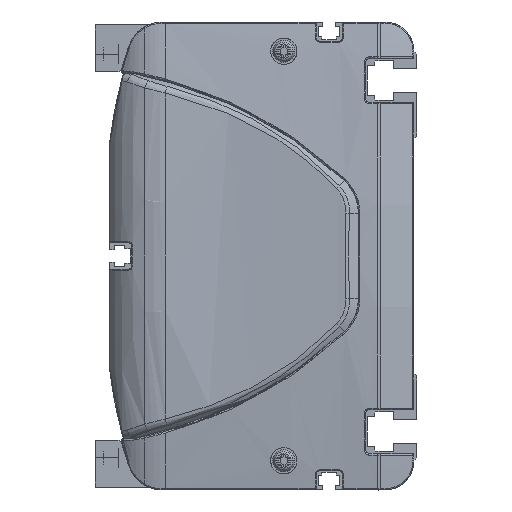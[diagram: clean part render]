
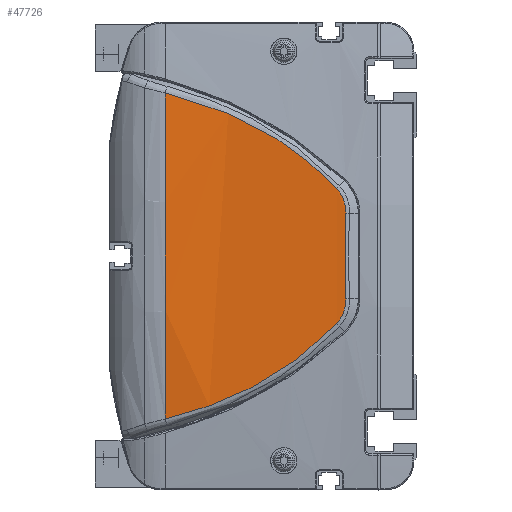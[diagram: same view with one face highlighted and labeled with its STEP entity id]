
A CAD part, left-side view. The second image highlights one B-rep face of the part: STEP entity #47726.
In plain terms, the highlighted cylindrical face has radius 600 mm (diameter 1200 mm), a partial arc.
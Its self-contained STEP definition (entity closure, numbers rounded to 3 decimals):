
#42745=CARTESIAN_POINT('',(-12.406,86.,
55.736));
#42746=CARTESIAN_POINT('',(-12.529,80.495,
54.41));
#42747=CARTESIAN_POINT('',(-12.828,69.636,
51.114));
#42748=CARTESIAN_POINT('',(-13.389,54.079,
44.179));
#42749=CARTESIAN_POINT('',(-14.01,39.709,
34.979));
#42750=CARTESIAN_POINT('',(-14.395,31.353,
27.243));
#42751=CARTESIAN_POINT('',(-14.555,27.451,
23.113));
#42753=CARTESIAN_POINT('',(-14.555,27.451,
23.113));
#42754=CARTESIAN_POINT('',(-14.641,25.336,
20.875));
#42755=CARTESIAN_POINT('',(-14.745,24.202,
17.745));
#42756=CARTESIAN_POINT('',(-14.821,24.351,
14.67));
#42758=CARTESIAN_POINT('',(-14.821,24.351,
14.67));
#42759=CARTESIAN_POINT('',(-14.9,24.51,
11.413));
#42760=CARTESIAN_POINT('',(-15.007,24.721,
4.895));
#42761=CARTESIAN_POINT('',(-15.007,24.721,
-4.895));
#42762=CARTESIAN_POINT('',(-14.9,24.51,
-11.413));
#42763=CARTESIAN_POINT('',(-14.821,24.351,
-14.67));
#42765=CARTESIAN_POINT('',(-14.821,24.351,
-14.67));
#42766=CARTESIAN_POINT('',(-14.745,24.202,
-17.745));
#42767=CARTESIAN_POINT('',(-14.641,25.337,
-20.876));
#42768=CARTESIAN_POINT('',(-14.555,27.451,
-23.113));
#42770=CARTESIAN_POINT('',(-14.555,27.451,
-23.113));
#42771=CARTESIAN_POINT('',(-14.395,31.353,
-27.243));
#42772=CARTESIAN_POINT('',(-14.01,39.709,
-34.979));
#42773=CARTESIAN_POINT('',(-13.389,54.079,
-44.179));
#42774=CARTESIAN_POINT('',(-12.828,69.636,
-51.114));
#42775=CARTESIAN_POINT('',(-12.529,80.495,
-54.41));
#42776=CARTESIAN_POINT('',(-12.406,86.,
-55.736));
#42778=CARTESIAN_POINT('',(585.,86.,0.));
#42779=DIRECTION('',(0.,1.,0.));
#42780=DIRECTION('',(-0.996,0.,-0.093));
#42781=AXIS2_PLACEMENT_3D('',#42778,#42779,#42780);
#42794=CARTESIAN_POINT('',(-12.406,86.,
55.736));
#43302=VERTEX_POINT('',#42794);
#43303=CARTESIAN_POINT('',(-12.406,86.,
-55.736));
#43304=VERTEX_POINT('',#43303);
#43356=VERTEX_POINT('',#42751);
#43357=VERTEX_POINT('',#42756);
#43358=VERTEX_POINT('',#42763);
#43359=VERTEX_POINT('',#42768);
#47708=CARTESIAN_POINT('',(585.,87.45,0.));
#47709=DIRECTION('',(0.,-1.,0.));
#47710=DIRECTION('',(0.,0.,-1.));
#47711=AXIS2_PLACEMENT_3D('',#47708,#47709,#47710);
#47712=CYLINDRICAL_SURFACE('',#47711,600.);
#47714=ORIENTED_EDGE('',*,*,#47713,.T.);
#47716=ORIENTED_EDGE('',*,*,#47715,.T.);
#47717=ORIENTED_EDGE('',*,*,#47698,.T.);
#47719=ORIENTED_EDGE('',*,*,#47718,.T.);
#47721=ORIENTED_EDGE('',*,*,#47720,.T.);
#47723=ORIENTED_EDGE('',*,*,#47722,.T.);
#47724=EDGE_LOOP('',(#47714,#47716,#47717,#47719,#47721,#47723));
#47725=FACE_OUTER_BOUND('',#47724,.F.);
#47726=ADVANCED_FACE('',(#47725),#47712,.T.);
#42752=B_SPLINE_CURVE_WITH_KNOTS('',3,(#42745,#42746,#42747,#42748,#42749,
#42750,#42751),.UNSPECIFIED.,.F.,.F.,(4,1,1,1,4),(0.,0.25,0.5,0.75,
1.),.UNSPECIFIED.);
#42757=B_SPLINE_CURVE_WITH_KNOTS('',3,(#42753,#42754,#42755,#42756),
.UNSPECIFIED.,.F.,.F.,(4,4),(0.,1.),.UNSPECIFIED.);
#42764=B_SPLINE_CURVE_WITH_KNOTS('',3,(#42758,#42759,#42760,#42761,#42762,
#42763),.UNSPECIFIED.,.F.,.F.,(4,1,1,4),(0.,0.333,
0.667,1.),.UNSPECIFIED.);
#42769=B_SPLINE_CURVE_WITH_KNOTS('',3,(#42765,#42766,#42767,#42768),
.UNSPECIFIED.,.F.,.F.,(4,4),(0.,1.),.UNSPECIFIED.);
#42777=B_SPLINE_CURVE_WITH_KNOTS('',3,(#42770,#42771,#42772,#42773,#42774,
#42775,#42776),.UNSPECIFIED.,.F.,.F.,(4,1,1,1,4),(0.,0.25,0.5,0.75,
1.),.UNSPECIFIED.);
#42782=CIRCLE('',#42781,600.);
#47698=EDGE_CURVE('',#43357,#43358,#42764,.T.);
#47713=EDGE_CURVE('',#43302,#43356,#42752,.T.);
#47715=EDGE_CURVE('',#43356,#43357,#42757,.T.);
#47718=EDGE_CURVE('',#43358,#43359,#42769,.T.);
#47720=EDGE_CURVE('',#43359,#43304,#42777,.T.);
#47722=EDGE_CURVE('',#43304,#43302,#42782,.T.);
